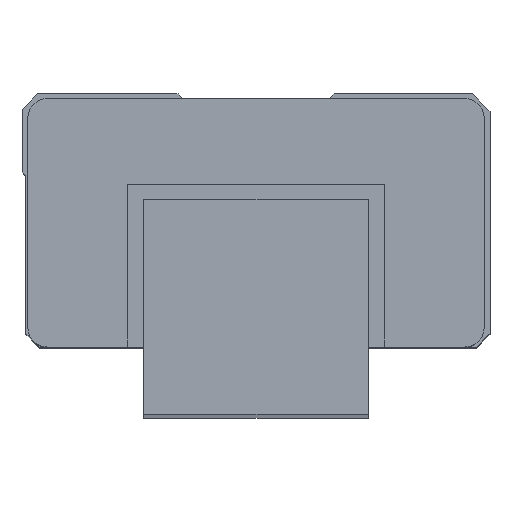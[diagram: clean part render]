
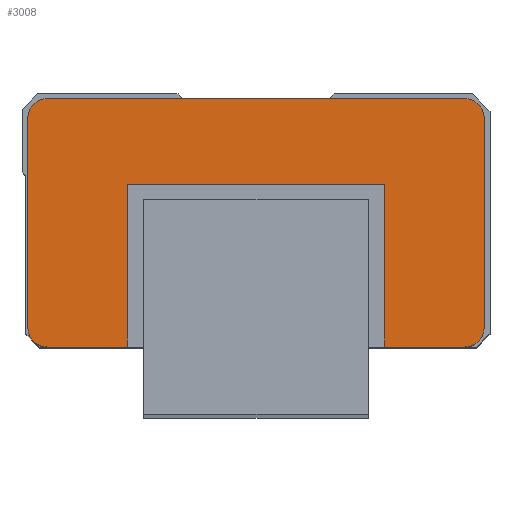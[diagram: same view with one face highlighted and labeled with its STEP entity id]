
A CAD part, top view. The second image highlights one B-rep face of the part: STEP entity #3008.
In plain terms, the highlighted planar face has unit normal (0, 0, 1).
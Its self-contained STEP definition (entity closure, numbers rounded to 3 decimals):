
#2462=CARTESIAN_POINT('',(24.7,23.7,170.2));
#2463=VERTEX_POINT('',#2462);
#2464=CARTESIAN_POINT('',(24.7,7.,170.2));
#2465=VERTEX_POINT('',#2464);
#2466=CARTESIAN_POINT('',(24.7,23.7,170.2));
#2467=DIRECTION('',(0.0,-1.0,0.0));
#2468=VECTOR('',#2467,1.0);
#2469=LINE('',#2466,#2468);
#2470=EDGE_CURVE('',#2463,#2465,#2469,.T.);
#2502=CARTESIAN_POINT('',(-1.7,23.7,170.2));
#2503=VERTEX_POINT('',#2502);
#2504=CARTESIAN_POINT('',(-1.7,23.7,170.2));
#2505=DIRECTION('',(1.0,0.0,0.0));
#2506=VECTOR('',#2505,1.0);
#2507=LINE('',#2504,#2506);
#2508=EDGE_CURVE('',#2503,#2463,#2507,.T.);
#2533=CARTESIAN_POINT('',(-1.7,7.,170.2));
#2534=VERTEX_POINT('',#2533);
#2535=CARTESIAN_POINT('',(-1.7,7.,170.2));
#2536=DIRECTION('',(0.0,1.0,0.0));
#2537=VECTOR('',#2536,1.0);
#2538=LINE('',#2535,#2537);
#2539=EDGE_CURVE('',#2534,#2503,#2538,.T.);
#2623=CARTESIAN_POINT('',(32.9,7.,170.2));
#2624=VERTEX_POINT('',#2623);
#2631=CARTESIAN_POINT('',(32.9,7.,170.2));
#2632=DIRECTION('',(-1.0,0.0,0.0));
#2633=VECTOR('',#2632,1.);
#2634=LINE('',#2631,#2633);
#2635=EDGE_CURVE('',#2624,#2465,#2634,.T.);
#2752=CARTESIAN_POINT('',(-9.9,7.,170.2));
#2753=VERTEX_POINT('',#2752);
#2754=CARTESIAN_POINT('',(-1.7,7.,170.2));
#2755=DIRECTION('',(-1.0,0.0,0.0));
#2756=VECTOR('',#2755,1.0);
#2757=LINE('',#2754,#2756);
#2758=EDGE_CURVE('',#2534,#2753,#2757,.T.);
#2783=CARTESIAN_POINT('',(-11.9,9.,170.2));
#2784=VERTEX_POINT('',#2783);
#2785=CARTESIAN_POINT('',(-11.9,30.5,170.2));
#2786=VERTEX_POINT('',#2785);
#2787=CARTESIAN_POINT('',(-11.9,9.,170.2));
#2788=DIRECTION('',(0.0,1.0,0.0));
#2789=VECTOR('',#2788,1.0);
#2790=LINE('',#2787,#2789);
#2791=EDGE_CURVE('',#2784,#2786,#2790,.T.);
#2814=CARTESIAN_POINT('',(-9.9,32.5,170.2));
#2815=VERTEX_POINT('',#2814);
#2816=CARTESIAN_POINT('',(-9.9,30.5,170.2));
#2817=DIRECTION('',(0.0,0.0,-1.0));
#2818=DIRECTION('',(-1.0,0.,0.0));
#2819=AXIS2_PLACEMENT_3D('',#2816,#2817,#2818);
#2820=CIRCLE('',#2819,2.);
#2821=EDGE_CURVE('',#2786,#2815,#2820,.T.);
#2839=CARTESIAN_POINT('',(32.9,32.5,170.2));
#2840=VERTEX_POINT('',#2839);
#2841=CARTESIAN_POINT('',(-9.9,32.5,170.2));
#2842=DIRECTION('',(1.0,0.0,0.0));
#2843=VECTOR('',#2842,1.0);
#2844=LINE('',#2841,#2843);
#2845=EDGE_CURVE('',#2815,#2840,#2844,.T.);
#2863=CARTESIAN_POINT('',(34.9,30.5,170.2));
#2864=VERTEX_POINT('',#2863);
#2865=CARTESIAN_POINT('',(32.9,30.5,170.2));
#2866=DIRECTION('',(0.0,0.0,-1.0));
#2867=DIRECTION('',(0.,1.0,0.0));
#2868=AXIS2_PLACEMENT_3D('',#2865,#2866,#2867);
#2869=CIRCLE('',#2868,2.);
#2870=EDGE_CURVE('',#2840,#2864,#2869,.T.);
#2888=CARTESIAN_POINT('',(34.9,9.,170.2));
#2889=VERTEX_POINT('',#2888);
#2890=CARTESIAN_POINT('',(34.9,30.5,170.2));
#2891=DIRECTION('',(0.0,-1.0,0.0));
#2892=VECTOR('',#2891,1.0);
#2893=LINE('',#2890,#2892);
#2894=EDGE_CURVE('',#2864,#2889,#2893,.T.);
#2912=CARTESIAN_POINT('',(32.9,9.,170.2));
#2913=DIRECTION('',(0.0,0.0,-1.0));
#2914=DIRECTION('',(1.0,0.0,0.0));
#2915=AXIS2_PLACEMENT_3D('',#2912,#2913,#2914);
#2916=CIRCLE('',#2915,2.);
#2917=EDGE_CURVE('',#2889,#2624,#2916,.T.);
#2976=CARTESIAN_POINT('',(-9.9,9.,170.2));
#2977=DIRECTION('',(0.0,0.0,-1.0));
#2978=DIRECTION('',(0.,-1.0,0.0));
#2979=AXIS2_PLACEMENT_3D('',#2976,#2977,#2978);
#2980=CIRCLE('',#2979,2.);
#2981=EDGE_CURVE('',#2753,#2784,#2980,.T.);
#2989=CARTESIAN_POINT('',(-14.24,5.725,170.2));
#2990=DIRECTION('',(0.0,0.0,1.0));
#2991=DIRECTION('',(1.0,0.0,0.0));
#2992=AXIS2_PLACEMENT_3D('',#2989,#2990,#2991);
#2993=PLANE('',#2992);
#2994=ORIENTED_EDGE('',*,*,#2470,.T.);
#2995=ORIENTED_EDGE('',*,*,#2635,.F.);
#2996=ORIENTED_EDGE('',*,*,#2917,.F.);
#2997=ORIENTED_EDGE('',*,*,#2894,.F.);
#2998=ORIENTED_EDGE('',*,*,#2870,.F.);
#2999=ORIENTED_EDGE('',*,*,#2845,.F.);
#3000=ORIENTED_EDGE('',*,*,#2821,.F.);
#3001=ORIENTED_EDGE('',*,*,#2791,.F.);
#3002=ORIENTED_EDGE('',*,*,#2981,.F.);
#3003=ORIENTED_EDGE('',*,*,#2758,.F.);
#3004=ORIENTED_EDGE('',*,*,#2539,.T.);
#3005=ORIENTED_EDGE('',*,*,#2508,.T.);
#3006=EDGE_LOOP('',(#2994,#2995,#2996,#2997,#2998,#2999,#3000,#3001,#3002,#3003,#3004,#3005));
#3007=FACE_OUTER_BOUND('',#3006,.T.);
#3008=ADVANCED_FACE('',(#3007),#2993,.T.);
